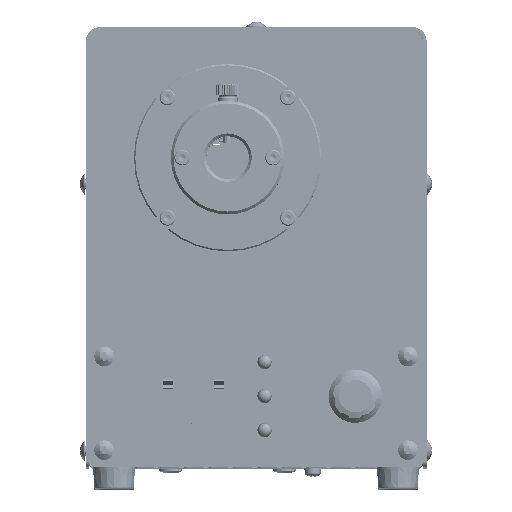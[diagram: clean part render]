
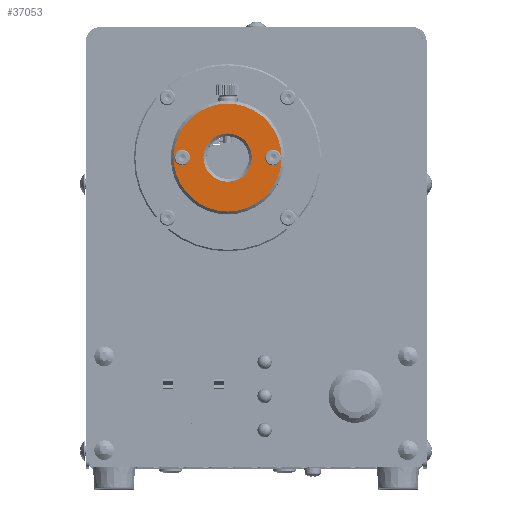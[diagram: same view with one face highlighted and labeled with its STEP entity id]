
A CAD part, top view. The second image highlights one B-rep face of the part: STEP entity #37053.
In plain terms, the highlighted planar face has unit normal (0, 0, 1).
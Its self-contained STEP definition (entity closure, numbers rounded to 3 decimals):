
#5825 = EDGE_LOOP ( 'NONE', ( #181316, #230384 ) ) ;
#6760 = PLANE ( 'NONE',  #9298 ) ;
#9298 = AXIS2_PLACEMENT_3D ( 'NONE', #183817, #66186, #203483 ) ;
#16904 = DIRECTION ( 'NONE',  ( 0., 0., 1. ) ) ;
#20103 = CARTESIAN_POINT ( 'NONE',  ( -26., 86.5, 178.7 ) ) ;
#21055 = VERTEX_POINT ( 'NONE', #217789 ) ;
#21512 = ORIENTED_EDGE ( 'NONE', *, *, #151313, .F. ) ;
#22725 = CARTESIAN_POINT ( 'NONE',  ( -10., 67.5, 178.7 ) ) ;
#25155 = CARTESIAN_POINT ( 'NONE',  ( 6., 86.5, 178.7 ) ) ;
#26440 = CIRCLE ( 'NONE', #109005, 8.5 ) ;
#28416 = AXIS2_PLACEMENT_3D ( 'NONE', #181232, #63544, #200865 ) ;
#30685 = EDGE_CURVE ( 'NONE', #37793, #142718, #84029, .T. ) ;
#37053 = ADVANCED_FACE ( 'NONE', ( #169821, #228168, #117578, #65364 ), #6760, .F. ) ;
#37793 = VERTEX_POINT ( 'NONE', #83225 ) ;
#38307 = EDGE_CURVE ( 'NONE', #142718, #37793, #174503, .T. ) ;
#39888 = DIRECTION ( 'NONE',  ( 0., 1., 0. ) ) ;
#44963 = DIRECTION ( 'NONE',  ( 0., 1., 0. ) ) ;
#46638 = CARTESIAN_POINT ( 'NONE',  ( -26., 86.5, 178.7 ) ) ;
#52745 = VERTEX_POINT ( 'NONE', #235914 ) ;
#55695 = CARTESIAN_POINT ( 'NONE',  ( -10., 86.5, 178.7 ) ) ;
#56072 = AXIS2_PLACEMENT_3D ( 'NONE', #46638, #184086, #66463 ) ;
#63544 = DIRECTION ( 'NONE',  ( 0., 0., 1. ) ) ;
#65364 = FACE_OUTER_BOUND ( 'NONE', #115099, .T. ) ;
#66186 = DIRECTION ( 'NONE',  ( 0., 0., -1. ) ) ;
#66463 = DIRECTION ( 'NONE',  ( 0., 1., 0. ) ) ;
#67311 = CARTESIAN_POINT ( 'NONE',  ( -10., 86.5, 178.7 ) ) ;
#68047 = VERTEX_POINT ( 'NONE', #154601 ) ;
#75498 = DIRECTION ( 'NONE',  ( 0., -1., 0. ) ) ;
#75747 = ORIENTED_EDGE ( 'NONE', *, *, #248892, .T. ) ;
#79077 = CARTESIAN_POINT ( 'NONE',  ( -10., 105.5, 178.7 ) ) ;
#82690 = CIRCLE ( 'NONE', #28416, 2.75 ) ;
#83225 = CARTESIAN_POINT ( 'NONE',  ( -26., 83.75, 178.7 ) ) ;
#84029 = CIRCLE ( 'NONE', #56072, 2.75 ) ;
#87113 = DIRECTION ( 'NONE',  ( 0., -1., 0. ) ) ;
#87497 = ORIENTED_EDGE ( 'NONE', *, *, #255024, .T. ) ;
#97001 = AXIS2_PLACEMENT_3D ( 'NONE', #134703, #16904, #154370 ) ;
#98327 = CARTESIAN_POINT ( 'NONE',  ( -10., 86.5, 178.7 ) ) ;
#98785 = CIRCLE ( 'NONE', #230819, 8.5 ) ;
#103440 = EDGE_CURVE ( 'NONE', #68047, #193288, #82690, .T. ) ;
#109005 = AXIS2_PLACEMENT_3D ( 'NONE', #98327, #235596, #118034 ) ;
#113272 = EDGE_CURVE ( 'NONE', #21055, #52745, #98785, .T. ) ;
#115099 = EDGE_LOOP ( 'NONE', ( #87497, #238227 ) ) ;
#117578 = FACE_BOUND ( 'NONE', #149623, .T. ) ;
#118034 = DIRECTION ( 'NONE',  ( 0., -1., 0. ) ) ;
#125501 = CARTESIAN_POINT ( 'NONE',  ( -26., 89.25, 178.7 ) ) ;
#134676 = AXIS2_PLACEMENT_3D ( 'NONE', #20103, #157542, #39888 ) ;
#134703 = CARTESIAN_POINT ( 'NONE',  ( -10., 86.5, 178.7 ) ) ;
#142718 = VERTEX_POINT ( 'NONE', #125501 ) ;
#149623 = EDGE_LOOP ( 'NONE', ( #75747, #176145 ) ) ;
#151313 = EDGE_CURVE ( 'NONE', #193288, #68047, #194523, .T. ) ;
#154370 = DIRECTION ( 'NONE',  ( 0., -1., 0. ) ) ;
#154601 = CARTESIAN_POINT ( 'NONE',  ( 6., 89.25, 178.7 ) ) ;
#157542 = DIRECTION ( 'NONE',  ( 0., 0., 1. ) ) ;
#162617 = DIRECTION ( 'NONE',  ( 0., 0., 1. ) ) ;
#169821 = FACE_BOUND ( 'NONE', #182564, .T. ) ;
#174427 = CARTESIAN_POINT ( 'NONE',  ( 6., 83.75, 178.7 ) ) ;
#174503 = CIRCLE ( 'NONE', #134676, 2.75 ) ;
#175873 = CIRCLE ( 'NONE', #97001, 19. ) ;
#176145 = ORIENTED_EDGE ( 'NONE', *, *, #113272, .T. ) ;
#181232 = CARTESIAN_POINT ( 'NONE',  ( 6., 86.5, 178.7 ) ) ;
#181316 = ORIENTED_EDGE ( 'NONE', *, *, #38307, .F. ) ;
#182564 = EDGE_LOOP ( 'NONE', ( #220262, #21512 ) ) ;
#183817 = CARTESIAN_POINT ( 'NONE',  ( -17.5, 86.5, 178.7 ) ) ;
#184086 = DIRECTION ( 'NONE',  ( 0., 0., 1. ) ) ;
#193111 = DIRECTION ( 'NONE',  ( 0., 0., -1. ) ) ;
#193288 = VERTEX_POINT ( 'NONE', #174427 ) ;
#194523 = CIRCLE ( 'NONE', #211645, 2.75 ) ;
#200865 = DIRECTION ( 'NONE',  ( 0., 1., 0. ) ) ;
#203483 = DIRECTION ( 'NONE',  ( 0., -1., 0. ) ) ;
#204568 = DIRECTION ( 'NONE',  ( 0., 0., 1. ) ) ;
#211645 = AXIS2_PLACEMENT_3D ( 'NONE', #25155, #162617, #44963 ) ;
#216362 = VERTEX_POINT ( 'NONE', #22725 ) ;
#217789 = CARTESIAN_POINT ( 'NONE',  ( -10., 78., 178.7 ) ) ;
#220262 = ORIENTED_EDGE ( 'NONE', *, *, #103440, .F. ) ;
#226665 = CIRCLE ( 'NONE', #254071, 19. ) ;
#228168 = FACE_BOUND ( 'NONE', #5825, .T. ) ;
#230384 = ORIENTED_EDGE ( 'NONE', *, *, #30685, .F. ) ;
#230819 = AXIS2_PLACEMENT_3D ( 'NONE', #55695, #193111, #75498 ) ;
#235596 = DIRECTION ( 'NONE',  ( 0., 0., -1. ) ) ;
#235914 = CARTESIAN_POINT ( 'NONE',  ( -10., 95., 178.7 ) ) ;
#238227 = ORIENTED_EDGE ( 'NONE', *, *, #241134, .T. ) ;
#241134 = EDGE_CURVE ( 'NONE', #252621, #216362, #226665, .T. ) ;
#248892 = EDGE_CURVE ( 'NONE', #52745, #21055, #26440, .T. ) ;
#252621 = VERTEX_POINT ( 'NONE', #79077 ) ;
#254071 = AXIS2_PLACEMENT_3D ( 'NONE', #67311, #204568, #87113 ) ;
#255024 = EDGE_CURVE ( 'NONE', #216362, #252621, #175873, .T. ) ;
